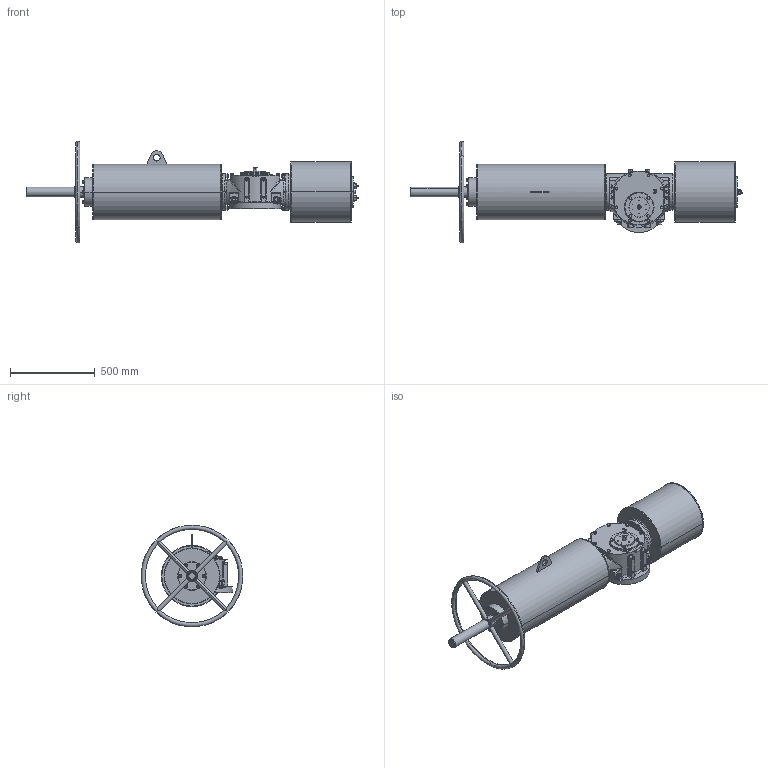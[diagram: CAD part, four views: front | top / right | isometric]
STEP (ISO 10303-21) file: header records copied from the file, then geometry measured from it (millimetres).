
FILE_DESCRIPTION (( 'STEP AP203' ), '1' );
FILE_NAME ('VTS3-350-SR-MS-FO.STEP', '2022-12-31T08:54:01', ( '' ), ( '' ), 'SwSTEP 2.0', 'SolidWorks 2020', '' );
FILE_SCHEMA (( 'CONFIG_CONTROL_DESIGN' ));
Length unit declared in the file: millimetre
Products named in the file (1): VTS3-350-SR-MS-FO
Bounding box: 1956.2 x 597.72 x 597.72 mm (x, y, z)
Volume: 121951142.6 mm3; surface area: 2890973.4 mm2
Topology: 22 solids, 25 shells, 2250 faces, 5891 edges, 3734 vertices
Faces by surface type: plane 861, cylinder 688, cone 482, bspline 141, torus 50, sphere 28
Entity records: 87199 total; most frequent: CARTESIAN_POINT 33571, ORIENTED_EDGE 11484, DIRECTION 11031, EDGE_CURVE 5742, AXIS2_PLACEMENT_3D 4438, VERTEX_POINT 3678, EDGE_LOOP 2504, CIRCLE 2328
